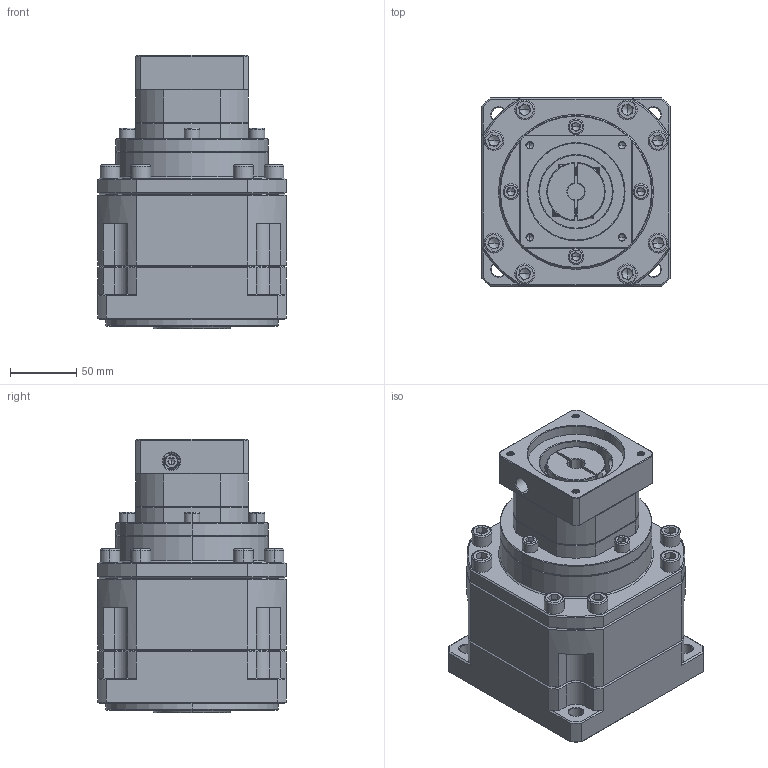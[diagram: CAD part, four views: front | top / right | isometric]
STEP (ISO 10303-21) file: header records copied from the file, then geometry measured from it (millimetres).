
FILE_DESCRIPTION (( 'STEP AP214' ), '1' );
FILE_NAME ('ZB142A-K35-L3-P2-12.7-73-69.6X69.6-M6.step', '2023-09-02T06:22:03', ( '' ), ( '' ), 'SwSTEP 2.0', 'SolidWorks 2016', '' );
FILE_SCHEMA (( 'AUTOMOTIVE_DESIGN' ));
Length unit declared in the file: millimetre
Products named in the file (1): ZB142A-K35-L3-P2-12.7-73-69.6X69.6-M6
Bounding box: 142 x 142 x 206.2 mm (x, y, z)
Volume: 2614718.5 mm3; surface area: 195299.4 mm2
Topology: 5 solids, 6 shells, 2479 faces, 6462 edges, 4103 vertices
Faces by surface type: plane 1225, cylinder 435, bspline 434, cone 370, torus 15
Entity records: 127744 total; most frequent: CARTESIAN_POINT 43099, ORIENTED_EDGE 12820, DIRECTION 10357, EDGE_CURVE 6410, VECTOR 4159, LINE 4159, VERTEX_POINT 4103, AXIS2_PLACEMENT_3D 3099
